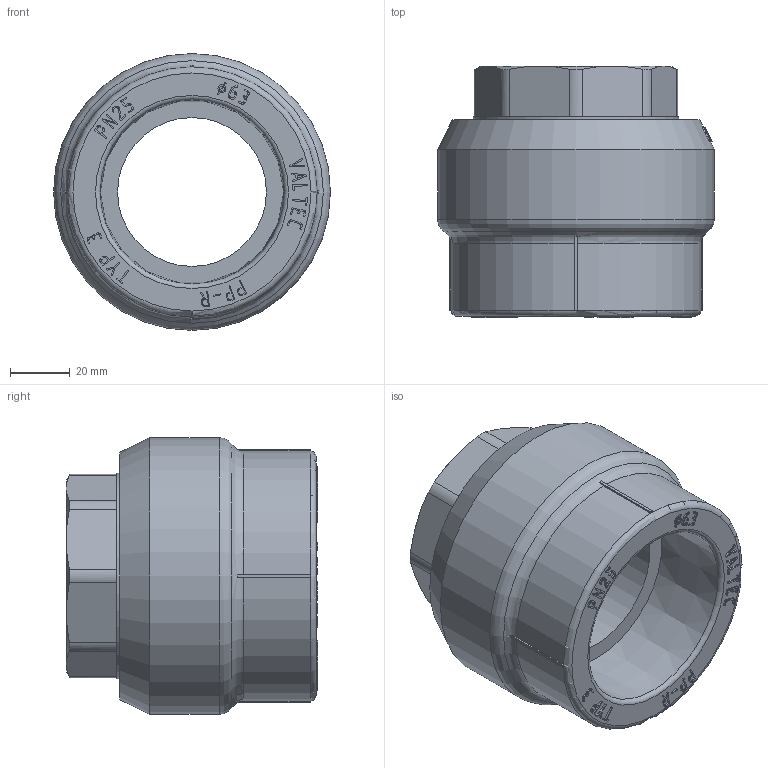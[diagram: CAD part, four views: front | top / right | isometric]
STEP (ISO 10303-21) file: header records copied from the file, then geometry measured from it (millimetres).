
FILE_DESCRIPTION(('STEP AP203'), '1');
FILE_NAME('ÂÐ.753153.019 - VTp.706.0.06309', '', ('UNSPECIFIED'), ('UNSPECIFIED'), 'C3D Converter', 'C3D Toolkit', '');
FILE_SCHEMA(('CONFIG_CONTROL_DESIGN'));
Length unit declared in the file: millimetre
Products named in the file (4): ВР.753153.019; ВР.302639.022.000; ВР.753154.020
Assembly tree (3 placements, depth 3):
  ВР.753153.019
    ВР.302639.022.000
      ВР.753154.020
      (unnamed)
Bounding box: 93 x 84.5 x 93 mm (x, y, z)
Volume: 262260.6 mm3; surface area: 83905.1 mm2
Topology: 3 solids, 3 shells, 851 faces, 2347 edges, 1560 vertices
Faces by surface type: extrusion 431, plane 349, cylinder 48, cone 18, torus 5
Full cylindrical faces by diameter (mm): 50 x1, 56.657 x1, 62 x2, 68 x8, 69 x1, 76 x10, 93 x1
Entity records: 31100 total; most frequent: CARTESIAN_POINT 11177, ORIENTED_EDGE 4594, DIRECTION 2751, EDGE_CURVE 2297, VECTOR 1609, VERTEX_POINT 1547, B_SPLINE_CURVE_WITH_KNOTS 1403, LINE 1178
